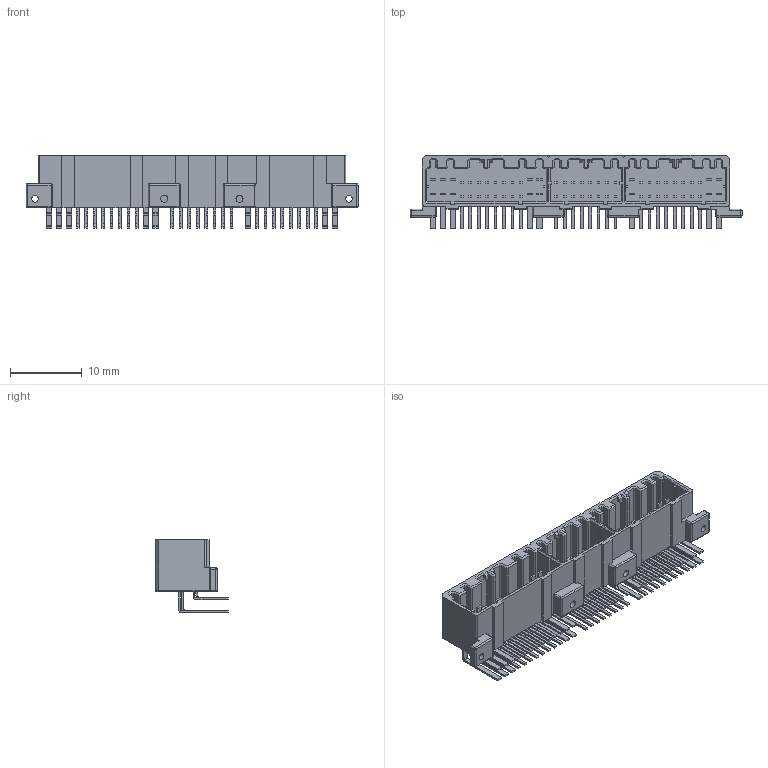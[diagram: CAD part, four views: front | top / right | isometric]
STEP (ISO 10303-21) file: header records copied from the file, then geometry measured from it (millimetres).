
FILE_DESCRIPTION(('FreeCAD Model'),'2;1');
FILE_NAME('C:/Users/Vista_64_D630/Desktop/Jared/code/Hardware/trunk/rusefi.com/rusefi_lib/3d/c-0176122-06-f-3d.step','2018-03-03T11:16:18',(''),(''), 'Open CASCADE STEP processor 6.8','FreeCAD','Unknown');
FILE_SCHEMA(('AUTOMOTIVE_DESIGN_CC2 { 1 2 10303 214 -1 1 5 4 }'));
Length unit declared in the file: millimetre
Products named in the file (2): ASSEMBLY; Clone_of_C-0176122-06-3
Assembly tree (1 placements, depth 2):
  ASSEMBLY
    Clone_of_C-0176122-06-3
Bounding box: 46.3 x 10.18 x 10.15 mm (x, y, z)
Volume: 1166.2 mm3; surface area: 3250.9 mm2
Topology: 1 solids, 1 shells, 1390 faces, 3570 edges, 2313 vertices
Faces by surface type: plane 1189, cylinder 181, sphere 20
Entity records: 51156 total; most frequent: CARTESIAN_POINT 7315, ORIENTED_EDGE 7140, DIRECTION 6698, EDGE_CURVE 3570, LINE 3214, VECTOR 3214, VERTEX_POINT 2313, AXIS2_PLACEMENT_3D 1742
